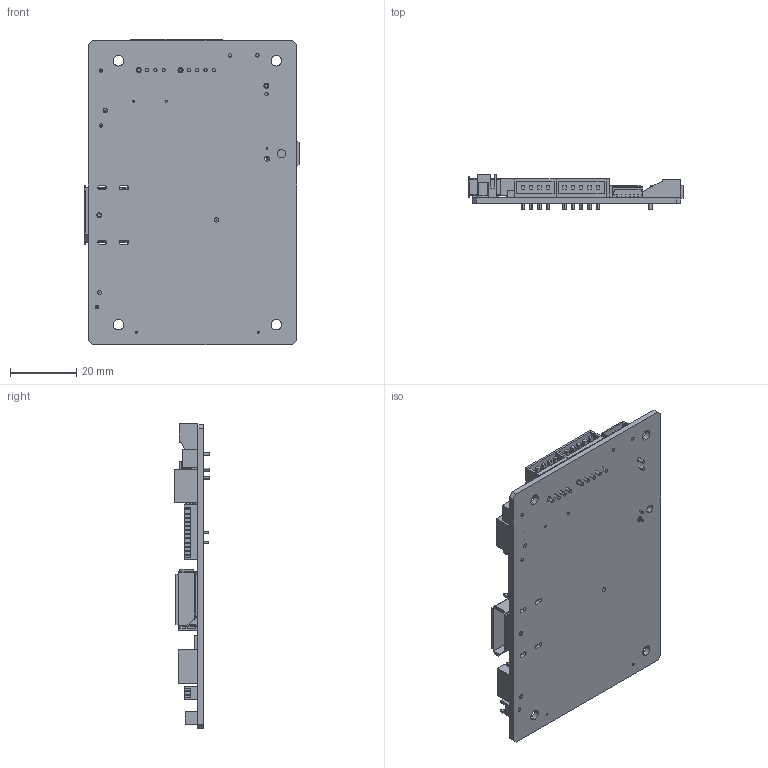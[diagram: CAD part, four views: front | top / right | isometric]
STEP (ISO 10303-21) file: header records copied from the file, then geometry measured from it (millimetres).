
FILE_DESCRIPTION (( 'STEP AP203' ), '1' );
FILE_NAME ('Assy PCB DT-1920-DP 417740010-3 240610.STEP', '2024-06-10T22:30:03', ( '' ), ( '' ), 'SwSTEP 2.0', 'SolidWorks 2023', '' );
FILE_SCHEMA (( 'CONFIG_CONTROL_DESIGN' ));
Length unit declared in the file: inch
Products named in the file (17): 210010003-3 2.5-F-03p; 210016005-3 Conn Hdr 5P RA; 210094803-3 Conn Hdr 3P Vert; 190010805-3 DIP Switch 8P Horz; 210016004-3 Conn Hdr 4P RA; 212202001-3 Display Port; 215090251-3 LVDS 51 pin; 210018004-3 PH Conn 2.0-F-04p; PCB DT-1920-DP 7740001 201123; 210061102-3 1.25-F-2P; 210072106-3 Conn Hdr SMT 6P RA; 210061112-3 1.25-F-12P; Assy PCB DT-1920-DP 417740010-3 240610; 190010405-3 DIP Switch 4P Horz; 210017303-3 Conn HDR SMT 3P RA; 210082402-3 Power 2P RA; 210016002-3 Conn Hdr 2P RA
Assembly tree (17 placements, depth 2):
  Assy PCB DT-1920-DP 417740010-3 240610
    PCB DT-1920-DP 7740001 201123
    190010805-3 DIP Switch 8P Horz
    210010003-3 2.5-F-03p
    210018004-3 PH Conn 2.0-F-04p  x2
    210061102-3 1.25-F-2P
    210061112-3 1.25-F-12P
    210082402-3 Power 2P RA
    215090251-3 LVDS 51 pin
    190010405-3 DIP Switch 4P Horz
    210016002-3 Conn Hdr 2P RA
    210016004-3 Conn Hdr 4P RA
    210016005-3 Conn Hdr 5P RA
    210017303-3 Conn HDR SMT 3P RA
    210072106-3 Conn Hdr SMT 6P RA
    210094803-3 Conn Hdr 3P Vert
    212202001-3 Display Port
Bounding box: 64.47 x 10.4 x 91.75 mm (x, y, z)
Volume: 12731.5 mm3; surface area: 19769.2 mm2
Topology: 17 solids, 17 shells, 1333 faces, 3134 edges, 1972 vertices
Faces by surface type: plane 1113, cylinder 220
Entity records: 37591 total; most frequent: CARTESIAN_POINT 6151, DIRECTION 5994, ORIENTED_EDGE 5968, EDGE_CURVE 2984, LINE 2564, VECTOR 2564, VERTEX_POINT 1872, AXIS2_PLACEMENT_3D 1715
